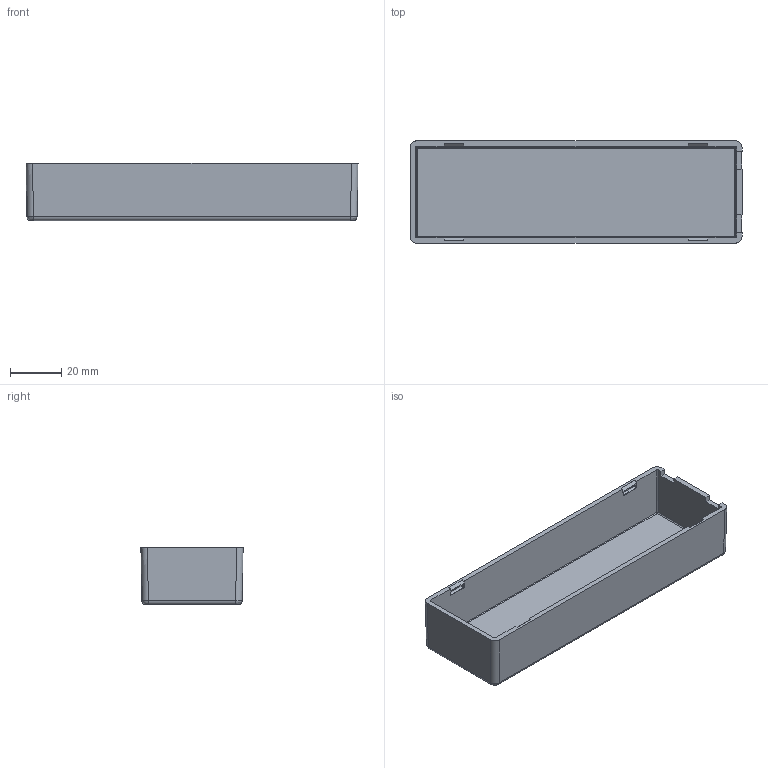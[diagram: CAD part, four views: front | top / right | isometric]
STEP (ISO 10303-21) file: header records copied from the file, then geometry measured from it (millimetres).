
FILE_DESCRIPTION((''),'2;1');
FILE_NAME('E:\Eng\Customer Service\Drawings\1597\STEP\1597V - Box.stp','2010-10-25T11:34:31',('tcook'),(''),'Autodesk Inventor 2011','Autodesk Inventor 2011','');
FILE_SCHEMA(('AUTOMOTIVE_DESIGN { 1 0 10303 214 1 1 1 1 }'));
Length unit declared in the file: inch
Products named in the file (1): 1597V - Box
Bounding box: 129.54 x 39.88 x 22.35 mm (x, y, z)
Volume: 23459.6 mm3; surface area: 23763.4 mm2
Topology: 1 solids, 1 shells, 94 faces, 232 edges, 144 vertices
Faces by surface type: plane 54, cylinder 32, bspline 8
Entity records: 2932 total; most frequent: CARTESIAN_POINT 663, ORIENTED_EDGE 464, DIRECTION 462, EDGE_CURVE 232, VECTOR 176, LINE 176, VERTEX_POINT 144, AXIS2_PLACEMENT_3D 143
